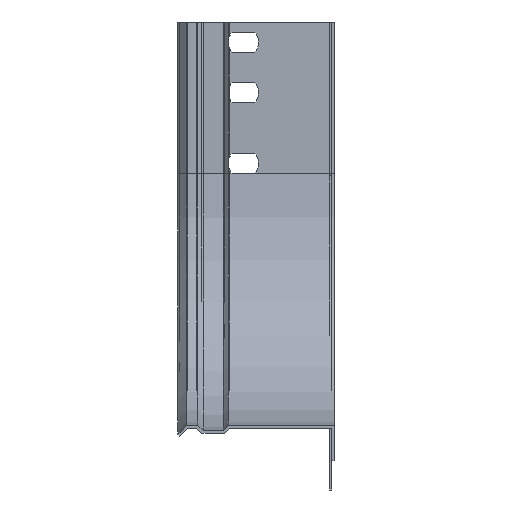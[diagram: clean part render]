
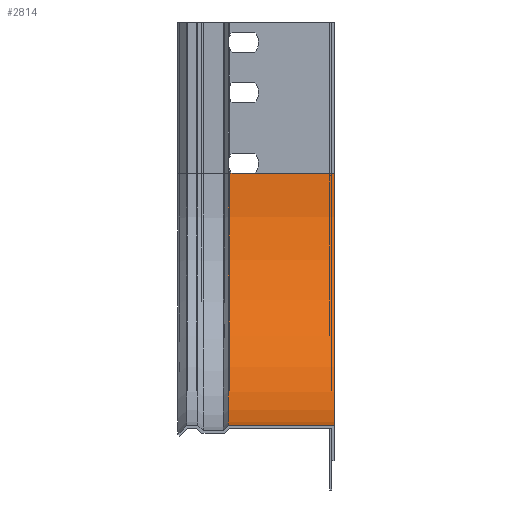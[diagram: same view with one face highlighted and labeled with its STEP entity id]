
A CAD part, left-side view. The second image highlights one B-rep face of the part: STEP entity #2814.
In plain terms, the highlighted cylindrical face has radius 100 mm (diameter 200 mm), a partial arc.
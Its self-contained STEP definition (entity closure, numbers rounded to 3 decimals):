
#48 = VERTEX_POINT ( 'NONE', #3164 ) ;
#77 = LINE ( 'NONE', #2613, #1484 ) ;
#185 = CARTESIAN_POINT ( 'NONE',  ( -60., 42., 60. ) ) ;
#312 = EDGE_CURVE ( 'NONE', #3883, #1039, #4098, .T. ) ;
#328 = VERTEX_POINT ( 'NONE', #498 ) ;
#332 = EDGE_LOOP ( 'NONE', ( #721, #871, #1349, #1095, #2897, #2387, #3980, #360 ) ) ;
#342 = CARTESIAN_POINT ( 'NONE',  ( -60., 0., 160. ) ) ;
#358 = CARTESIAN_POINT ( 'NONE',  ( -160., 0., 60. ) ) ;
#360 = ORIENTED_EDGE ( 'NONE', *, *, #2520, .F. ) ;
#383 = DIRECTION ( 'NONE',  ( 0., 1., 0. ) ) ;
#399 = VECTOR ( 'NONE', #3705, 1000. ) ;
#430 = CARTESIAN_POINT ( 'NONE',  ( -160., 40.472, 60. ) ) ;
#492 = CARTESIAN_POINT ( 'NONE',  ( -60., 0., 60. ) ) ;
#498 = CARTESIAN_POINT ( 'NONE',  ( -60., 31.528, 160. ) ) ;
#514 = DIRECTION ( 'NONE',  ( 0., -1., 0. ) ) ;
#559 = LINE ( 'NONE', #4649, #2812 ) ;
#596 = VERTEX_POINT ( 'NONE', #4067 ) ;
#612 = EDGE_CURVE ( 'NONE', #48, #904, #2914, .T. ) ;
#721 = ORIENTED_EDGE ( 'NONE', *, *, #3232, .F. ) ;
#771 = VERTEX_POINT ( 'NONE', #3717 ) ;
#823 = DIRECTION ( 'NONE',  ( 0., 1., 0. ) ) ;
#846 = CARTESIAN_POINT ( 'NONE',  ( -60., 0., 60. ) ) ;
#871 = ORIENTED_EDGE ( 'NONE', *, *, #3902, .T. ) ;
#904 = VERTEX_POINT ( 'NONE', #430 ) ;
#1039 = VERTEX_POINT ( 'NONE', #3525 ) ;
#1095 = ORIENTED_EDGE ( 'NONE', *, *, #612, .T. ) ;
#1123 = CIRCLE ( 'NONE', #2195, 100. ) ;
#1227 = DIRECTION ( 'NONE',  ( 0., -1., 0. ) ) ;
#1349 = ORIENTED_EDGE ( 'NONE', *, *, #2723, .T. ) ;
#1484 = VECTOR ( 'NONE', #823, 1000. ) ;
#1653 = DIRECTION ( 'NONE',  ( 0., -1., 0. ) ) ;
#1784 = AXIS2_PLACEMENT_3D ( 'NONE', #846, #1227, #2303 ) ;
#1799 = DIRECTION ( 'NONE',  ( 0., 1., 0. ) ) ;
#2103 = VECTOR ( 'NONE', #1799, 1000. ) ;
#2167 = CARTESIAN_POINT ( 'NONE',  ( -160., 0., 60. ) ) ;
#2195 = AXIS2_PLACEMENT_3D ( 'NONE', #492, #514, #3845 ) ;
#2303 = DIRECTION ( 'NONE',  ( 0., 0., -1. ) ) ;
#2387 = ORIENTED_EDGE ( 'NONE', *, *, #312, .F. ) ;
#2520 = EDGE_CURVE ( 'NONE', #328, #771, #559, .T. ) ;
#2543 = LINE ( 'NONE', #342, #3170 ) ;
#2611 = EDGE_CURVE ( 'NONE', #904, #1039, #3287, .T. ) ;
#2613 = CARTESIAN_POINT ( 'NONE',  ( -160., 0., 60. ) ) ;
#2630 = EDGE_CURVE ( 'NONE', #771, #3883, #2543, .T. ) ;
#2713 = CYLINDRICAL_SURFACE ( 'NONE', #1784, 100. ) ;
#2723 = EDGE_CURVE ( 'NONE', #2972, #48, #77, .T. ) ;
#2812 = VECTOR ( 'NONE', #3560, 1000. ) ;
#2814 = ADVANCED_FACE ( 'NONE', ( #4134 ), #2713, .F. ) ;
#2897 = ORIENTED_EDGE ( 'NONE', *, *, #2611, .T. ) ;
#2914 = LINE ( 'NONE', #3369, #399 ) ;
#2972 = VERTEX_POINT ( 'NONE', #358 ) ;
#3164 = CARTESIAN_POINT ( 'NONE',  ( -160., 31.528, 60. ) ) ;
#3170 = VECTOR ( 'NONE', #383, 1000. ) ;
#3232 = EDGE_CURVE ( 'NONE', #596, #328, #4240, .T. ) ;
#3251 = AXIS2_PLACEMENT_3D ( 'NONE', #185, #1653, #4612 ) ;
#3287 = LINE ( 'NONE', #2167, #2103 ) ;
#3369 = CARTESIAN_POINT ( 'NONE',  ( -160., 40.472, 60. ) ) ;
#3525 = CARTESIAN_POINT ( 'NONE',  ( -160., 42., 60. ) ) ;
#3560 = DIRECTION ( 'NONE',  ( 0., 1., 0. ) ) ;
#3571 = DIRECTION ( 'NONE',  ( 0., 1., 0. ) ) ;
#3705 = DIRECTION ( 'NONE',  ( 0., 1., 0. ) ) ;
#3717 = CARTESIAN_POINT ( 'NONE',  ( -60., 40.472, 160. ) ) ;
#3845 = DIRECTION ( 'NONE',  ( 0., 0., -1. ) ) ;
#3860 = VECTOR ( 'NONE', #3571, 1000. ) ;
#3883 = VERTEX_POINT ( 'NONE', #4206 ) ;
#3902 = EDGE_CURVE ( 'NONE', #596, #2972, #1123, .T. ) ;
#3980 = ORIENTED_EDGE ( 'NONE', *, *, #2630, .F. ) ;
#4067 = CARTESIAN_POINT ( 'NONE',  ( -60., 0., 160. ) ) ;
#4098 = CIRCLE ( 'NONE', #3251, 100. ) ;
#4134 = FACE_OUTER_BOUND ( 'NONE', #332, .T. ) ;
#4206 = CARTESIAN_POINT ( 'NONE',  ( -60., 42., 160. ) ) ;
#4240 = LINE ( 'NONE', #4341, #3860 ) ;
#4341 = CARTESIAN_POINT ( 'NONE',  ( -60., 0., 160. ) ) ;
#4612 = DIRECTION ( 'NONE',  ( 0., 0., -1. ) ) ;
#4649 = CARTESIAN_POINT ( 'NONE',  ( -60., 40.472, 160. ) ) ;
